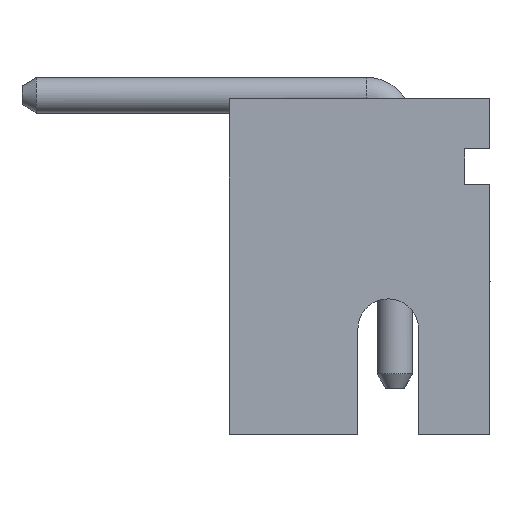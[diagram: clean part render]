
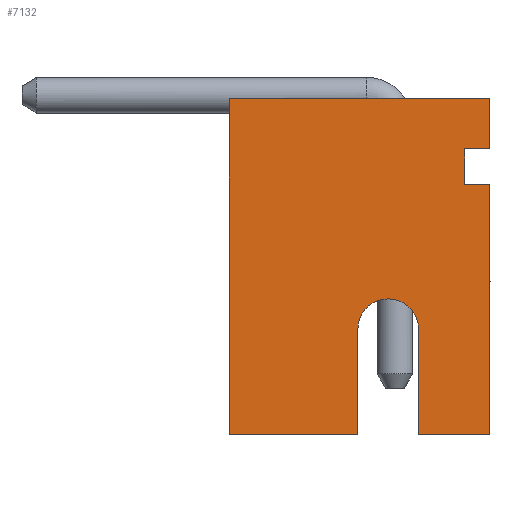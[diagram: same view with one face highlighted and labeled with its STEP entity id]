
A CAD part, left-side view. The second image highlights one B-rep face of the part: STEP entity #7132.
In plain terms, the highlighted planar face has unit normal (-1, 0, 0).
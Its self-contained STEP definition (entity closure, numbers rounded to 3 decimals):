
#17 = ORIENTED_EDGE ( 'NONE', *, *, #22495, .F. ) ;
#18 = CARTESIAN_POINT ( 'NONE',  ( -9., -1.475, -0.7 ) ) ;
#363 = CARTESIAN_POINT ( 'NONE',  ( -9., 0.025, -4.7 ) ) ;
#400 = LINE ( 'NONE', #4010, #12395 ) ;
#616 = CARTESIAN_POINT ( 'NONE',  ( -9., -1.825, -0.7 ) ) ;
#973 = CARTESIAN_POINT ( 'NONE',  ( -9., 1.825, -4.7 ) ) ;
#1000 = DIRECTION ( 'NONE',  ( 0., 0., -1. ) ) ;
#1125 = VERTEX_POINT ( 'NONE', #19630 ) ;
#1281 = DIRECTION ( 'NONE',  ( 0., 0., -1. ) ) ;
#1340 = LINE ( 'NONE', #2956, #11758 ) ;
#1482 = DIRECTION ( 'NONE',  ( 0., 1., 0. ) ) ;
#1570 = VERTEX_POINT ( 'NONE', #19481 ) ;
#1892 = CARTESIAN_POINT ( 'NONE',  ( -9., 0., -2.35 ) ) ;
#1936 = CARTESIAN_POINT ( 'NONE',  ( -9., -1.475, -1.2 ) ) ;
#2011 = EDGE_CURVE ( 'NONE', #19813, #9005, #18968, .T. ) ;
#2457 = ORIENTED_EDGE ( 'NONE', *, *, #2780, .F. ) ;
#2590 = ORIENTED_EDGE ( 'NONE', *, *, #9441, .F. ) ;
#2780 = EDGE_CURVE ( 'NONE', #16932, #19443, #17656, .T. ) ;
#2913 = EDGE_CURVE ( 'NONE', #21151, #16085, #22244, .T. ) ;
#2956 = CARTESIAN_POINT ( 'NONE',  ( -9., -1.475, -0.7 ) ) ;
#3146 = LINE ( 'NONE', #14329, #18220 ) ;
#3877 = DIRECTION ( 'NONE',  ( 0., 1., 0. ) ) ;
#3950 = EDGE_CURVE ( 'NONE', #9005, #23066, #3146, .T. ) ;
#3981 = ORIENTED_EDGE ( 'NONE', *, *, #2913, .F. ) ;
#4004 = DIRECTION ( 'NONE',  ( 1., 0., 0. ) ) ;
#4010 = CARTESIAN_POINT ( 'NONE',  ( -9., 1.825, -4.7 ) ) ;
#4216 = DIRECTION ( 'NONE',  ( 0., 1., 0. ) ) ;
#4751 = LINE ( 'NONE', #12449, #17368 ) ;
#5186 = EDGE_CURVE ( 'NONE', #1125, #21151, #12303, .T. ) ;
#5440 = CARTESIAN_POINT ( 'NONE',  ( -9., -0.4, -3.225 ) ) ;
#7132 = ADVANCED_FACE ( 'NONE', ( #18926 ), #11454, .F. ) ;
#7554 = DIRECTION ( 'NONE',  ( 0., -1., 0. ) ) ;
#7563 = CARTESIAN_POINT ( 'NONE',  ( -9., -1.475, -1.2 ) ) ;
#7644 = DIRECTION ( 'NONE',  ( 0., -1., 0. ) ) ;
#7968 = CARTESIAN_POINT ( 'NONE',  ( -9., -1.825, -0.7 ) ) ;
#8154 = EDGE_CURVE ( 'NONE', #1570, #11496, #17699, .T. ) ;
#8313 = DIRECTION ( 'NONE',  ( 0., 1., 0. ) ) ;
#8805 = CARTESIAN_POINT ( 'NONE',  ( -9., -1.825, 0. ) ) ;
#8909 = ORIENTED_EDGE ( 'NONE', *, *, #14914, .F. ) ;
#9005 = VERTEX_POINT ( 'NONE', #11151 ) ;
#9441 = EDGE_CURVE ( 'NONE', #16085, #1570, #400, .T. ) ;
#9828 = VECTOR ( 'NONE', #1000, 1000. ) ;
#10407 = CARTESIAN_POINT ( 'NONE',  ( -9., -0.825, -4.7 ) ) ;
#10467 = DIRECTION ( 'NONE',  ( 0., 0., -1. ) ) ;
#10916 = LINE ( 'NONE', #12403, #11418 ) ;
#11151 = CARTESIAN_POINT ( 'NONE',  ( -9., -1.825, -1.2 ) ) ;
#11174 = ORIENTED_EDGE ( 'NONE', *, *, #2011, .F. ) ;
#11418 = VECTOR ( 'NONE', #23981, 1000. ) ;
#11454 = PLANE ( 'NONE',  #20484 ) ;
#11496 = VERTEX_POINT ( 'NONE', #8805 ) ;
#11758 = VECTOR ( 'NONE', #18486, 1000. ) ;
#11824 = AXIS2_PLACEMENT_3D ( 'NONE', #5440, #13024, #7554 ) ;
#12164 = CARTESIAN_POINT ( 'NONE',  ( -9., -1.825, -4.7 ) ) ;
#12303 = LINE ( 'NONE', #17789, #9828 ) ;
#12395 = VECTOR ( 'NONE', #15566, 1000. ) ;
#12403 = CARTESIAN_POINT ( 'NONE',  ( -9., -0.825, -4.7 ) ) ;
#12449 = CARTESIAN_POINT ( 'NONE',  ( -9., -1.825, 0. ) ) ;
#12703 = ORIENTED_EDGE ( 'NONE', *, *, #22360, .F. ) ;
#13024 = DIRECTION ( 'NONE',  ( -1., 0., 0. ) ) ;
#13407 = CIRCLE ( 'NONE', #11824, 0.425 ) ;
#13738 = VECTOR ( 'NONE', #1482, 1000. ) ;
#14329 = CARTESIAN_POINT ( 'NONE',  ( -9., -1.825, -1.2 ) ) ;
#14889 = VERTEX_POINT ( 'NONE', #24205 ) ;
#14914 = EDGE_CURVE ( 'NONE', #19443, #19813, #1340, .T. ) ;
#15566 = DIRECTION ( 'NONE',  ( 0., 0., 1. ) ) ;
#15738 = VECTOR ( 'NONE', #8313, 1000. ) ;
#15846 = CARTESIAN_POINT ( 'NONE',  ( -9., 1.825, 0. ) ) ;
#16085 = VERTEX_POINT ( 'NONE', #973 ) ;
#16162 = EDGE_LOOP ( 'NONE', ( #17, #12703, #22811, #23910, #11174, #8909, #2457, #19731, #18441, #2590, #3981, #22407 ) ) ;
#16215 = DIRECTION ( 'NONE',  ( 0., -1., 0. ) ) ;
#16932 = VERTEX_POINT ( 'NONE', #7968 ) ;
#17368 = VECTOR ( 'NONE', #1281, 1000. ) ;
#17528 = CARTESIAN_POINT ( 'NONE',  ( -9., -1.825, -4.7 ) ) ;
#17654 = LINE ( 'NONE', #17528, #20173 ) ;
#17656 = LINE ( 'NONE', #616, #15738 ) ;
#17699 = LINE ( 'NONE', #15846, #23737 ) ;
#17789 = CARTESIAN_POINT ( 'NONE',  ( -9., 0.025, -3.225 ) ) ;
#18220 = VECTOR ( 'NONE', #10467, 1000. ) ;
#18441 = ORIENTED_EDGE ( 'NONE', *, *, #8154, .F. ) ;
#18486 = DIRECTION ( 'NONE',  ( 0., 0., -1. ) ) ;
#18513 = CARTESIAN_POINT ( 'NONE',  ( -9., 0.025, -4.7 ) ) ;
#18926 = FACE_OUTER_BOUND ( 'NONE', #16162, .T. ) ;
#18968 = LINE ( 'NONE', #1936, #21892 ) ;
#19160 = EDGE_CURVE ( 'NONE', #11496, #16932, #4751, .T. ) ;
#19443 = VERTEX_POINT ( 'NONE', #18 ) ;
#19481 = CARTESIAN_POINT ( 'NONE',  ( -9., 1.825, 0. ) ) ;
#19630 = CARTESIAN_POINT ( 'NONE',  ( -9., 0.025, -3.225 ) ) ;
#19731 = ORIENTED_EDGE ( 'NONE', *, *, #19160, .F. ) ;
#19813 = VERTEX_POINT ( 'NONE', #7563 ) ;
#19957 = VERTEX_POINT ( 'NONE', #10407 ) ;
#20173 = VECTOR ( 'NONE', #4216, 1000. ) ;
#20484 = AXIS2_PLACEMENT_3D ( 'NONE', #1892, #4004, #3877 ) ;
#21151 = VERTEX_POINT ( 'NONE', #363 ) ;
#21892 = VECTOR ( 'NONE', #7644, 1000. ) ;
#22244 = LINE ( 'NONE', #18513, #13738 ) ;
#22320 = EDGE_CURVE ( 'NONE', #23066, #19957, #17654, .T. ) ;
#22360 = EDGE_CURVE ( 'NONE', #19957, #14889, #10916, .T. ) ;
#22407 = ORIENTED_EDGE ( 'NONE', *, *, #5186, .F. ) ;
#22495 = EDGE_CURVE ( 'NONE', #14889, #1125, #13407, .T. ) ;
#22811 = ORIENTED_EDGE ( 'NONE', *, *, #22320, .F. ) ;
#23066 = VERTEX_POINT ( 'NONE', #12164 ) ;
#23737 = VECTOR ( 'NONE', #16215, 1000. ) ;
#23910 = ORIENTED_EDGE ( 'NONE', *, *, #3950, .F. ) ;
#23981 = DIRECTION ( 'NONE',  ( 0., 0., 1. ) ) ;
#24205 = CARTESIAN_POINT ( 'NONE',  ( -9., -0.825, -3.225 ) ) ;
